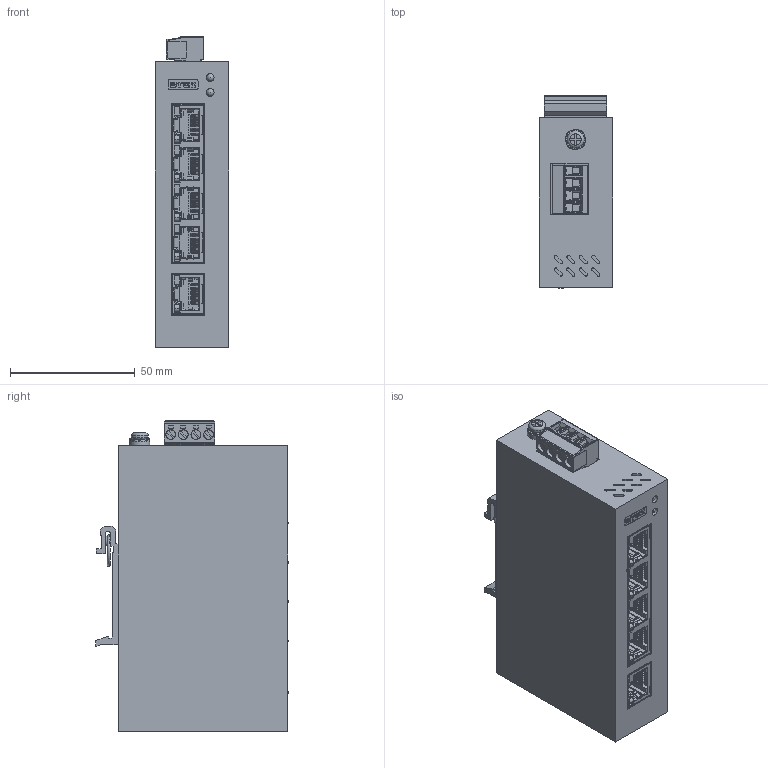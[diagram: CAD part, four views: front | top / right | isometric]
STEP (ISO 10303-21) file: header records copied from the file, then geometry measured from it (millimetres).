
FILE_DESCRIPTION(('TFLEX Exchange Step'),'2;1');
FILE_NAME('70310002_STEZ1005-T.stp', '2025-08-26T13:17:23+03:00',('YLedovskikh'),('Unknown organisation'),'TFLEX Exchange 2023.2','T-FLEX CAD','Unknown authorisation');
FILE_SCHEMA( ('AUTOMOTIVE_DESIGN { 1 0 10303 214 1 1 1 1 }') );
Length unit declared in the file: millimetre
Products named in the file (1): 70310002_STEZ1005-T:1
Bounding box: 29.6 x 77.25 x 124.55 mm (x, y, z)
Volume: 226151.4 mm3; surface area: 55155.5 mm2
Topology: 43 solids, 56 shells, 4496 faces, 12847 edges, 8331 vertices
Faces by surface type: plane 2920, cylinder 1150, bspline 238, torus 146, extrusion 18, cone 16, sphere 8
Full cylindrical faces by diameter (mm): 0.46 x80, 1.2 x1, 1.3 x4, 3 x6, 3.1 x2, 3.821 x4, 4 x6, 4.4 x1, 6.8 x1, 8 x1
Entity records: 153700 total; most frequent: CARTESIAN_POINT 35681, ORIENTED_EDGE 25664, DIRECTION 23017, EDGE_CURVE 12832, VECTOR 9359, LINE 9341, VERTEX_POINT 8331, AXIS2_PLACEMENT_3D 6829
